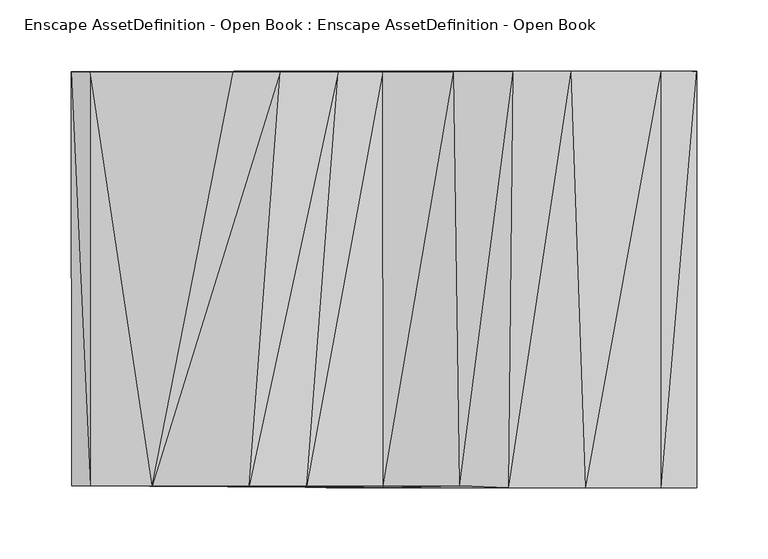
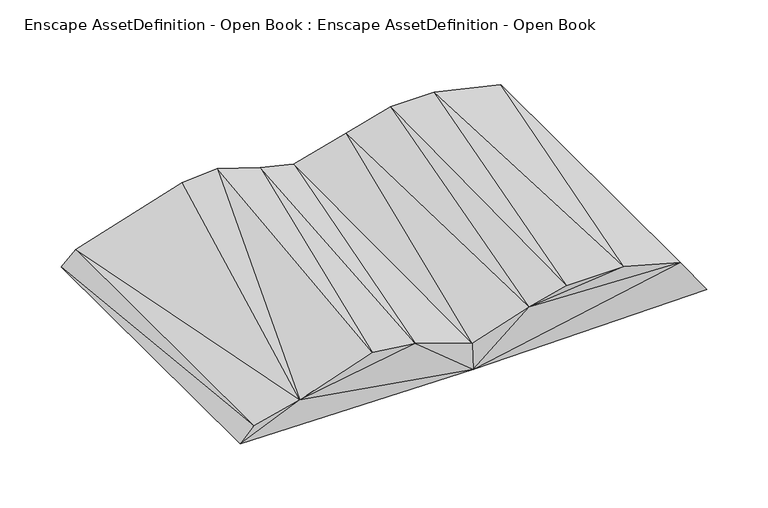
"""IFC4 building model written with IfcOpenShell, lengths in millimetres: geographic element geometry, Enscape AssetDefinition - Open Book : Enscape AssetDefinition - Open Book."""

from ifc_helpers import new_model, si_unit, origin, place, context, project, spatial, faceted_brep, source, transform, mapped, element, save


def enscape_assetdefinition_open_book_enscape_assetdefinition_955bd487(model_context):
    return source(origin(), model_context, "Body", "Brep", [
        faceted_brep([(219.8091298, 145.7048357, 2.6007295), (-0.3549631, -146.8307227, 0.0), (-0.3549631, 145.7048357, 0.0), (219.8091298, -146.8307227, 2.6007295), (-219.2691714, -145.3778744, 1.5808354), (194.6757436, -146.8307227, 38.6789739), (53.3244535, -145.3778744, 42.5965674), (-0.3379648, -145.3778744, 24.9294061), (-54.3133467, -145.3778744, 44.0604128), (-162.7370715, -145.3778744, 25.5483408), (194.6757436, 145.7048357, 38.6789739), (141.8112367, -146.8307227, 53.0644804), (131.705299, 145.7048357, 53.0644804), (48.9619039, 145.3778744, 41.1207229), (87.6778737, -146.8307227, 53.0644804), (90.8185467, 145.7048357, 53.0644804), (-0.893907, 145.3778744, 27.6601221), (-32.2096497, 145.3778744, 35.3113227), (-219.6921408, 145.3778744, 1.9577963), (-72.8444234, 145.3778744, 48.5019535), (-106.0039625, 145.3778744, 46.5041585), (-94.5841596, -145.3778744, 49.3998602), (-206.1855495, 145.3778744, 14.8024596), (-206.1855495, -145.3778744, 14.8024596)], [[[0, 1, 2]], [[1, 0, 3]], [[4, 2, 1]], [[1, 5, 6]], [[5, 1, 3]], [[1, 7, 8]], [[1, 6, 7]], [[1, 9, 4]], [[9, 1, 8]], [[0, 5, 3]], [[5, 0, 10]], [[10, 11, 5]], [[11, 6, 5]], [[11, 10, 12]], [[0, 13, 10]], [[13, 12, 10]], [[12, 14, 11]], [[6, 11, 14]], [[14, 12, 15]], [[12, 13, 15]], [[15, 6, 14]], [[6, 15, 13]], [[13, 7, 6]], [[7, 13, 16]], [[13, 0, 2]], [[13, 2, 16]], [[8, 16, 17]], [[16, 8, 7]], [[2, 17, 16]], [[2, 4, 18]], [[17, 2, 19]], [[19, 2, 20]], [[18, 20, 2]], [[21, 17, 19]], [[17, 21, 8]], [[9, 19, 20]], [[19, 9, 21]], [[22, 9, 20]], [[20, 18, 22]], [[23, 18, 4]], [[18, 23, 22]], [[4, 9, 23]], [[9, 22, 23]], [[9, 8, 21]]]),
    ])


if __name__ == "__main__":
    model = new_model("IFC4")
    model_context = context("Model", 3, world=origin())
    ifc_project = project(units=[si_unit("LENGTHUNIT", "METRE", prefix="MILLI")], contexts=[model_context])
    site = spatial("IfcSite", under=ifc_project)
    building = spatial("IfcBuilding", under=site)
    placement = place(None, origin())
    enscape_assetdefinition_open_book_enscape_assetdefinition_shape = enscape_assetdefinition_open_book_enscape_assetdefinition_955bd487(model_context)
    element("IfcGeographicElement", 1, ObjectType="Enscape AssetDefinition - Open Book : Enscape AssetDefinition - Open Book", at=placement, inside=building, context=model_context, shape_type="MappedRepresentation", body=[
        mapped(enscape_assetdefinition_open_book_enscape_assetdefinition_shape, transform((0.0, 0.0, 0.0), x_axis=(1.0, 0.0, 0.0), y_axis=(0.0, 1.0, 0.0), z_axis=(0.0, 0.0, 1.0))),
    ])
    save(model, "model.ifc")
